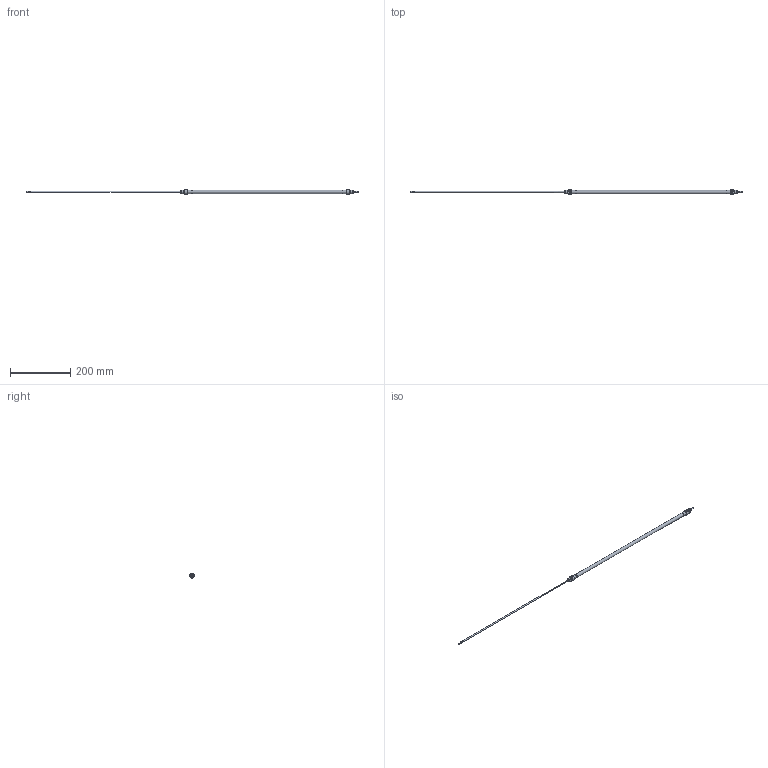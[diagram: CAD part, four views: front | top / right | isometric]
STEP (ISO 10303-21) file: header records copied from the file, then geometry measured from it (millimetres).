
FILE_DESCRIPTION( ( 'STEP AP203' ), '1' );
FILE_NAME( '//expscmdclustefs.cadenas.external/client_exchange/iodir/jobs/output/wkb68274831_no0/STEP/M101-010-0500-M__0__2_03.stp', ' ', ( ' ' ), ( ' ' ), 'PSStep 15.0.47', 'PARTsolutions', ' ' );
FILE_SCHEMA( ( 'CONFIG_CONTROL_DESIGN' ) );
Length unit declared in the file: millimetre
Products named in the file (3): M101-010-0500-M [0]; HI_M101-010-0500-M-[0]-z; HI_M101-010-0500-M-[0]-k
Assembly tree (2 placements, depth 2):
  M101-010-0500-M [0]
    HI_M101-010-0500-M-[0]-z
    HI_M101-010-0500-M-[0]-k
Bounding box: 1106 x 15.77 x 14.87 mm (x, y, z)
Volume: 33050.1 mm3; surface area: 52303 mm2
Topology: 2 solids, 2 shells, 71 faces, 145 edges, 88 vertices
Faces by surface type: plane 32, cylinder 23, cone 14, torus 2
Full cylindrical faces by diameter (mm): 3.141 x2, 4 x6, 4.134 x2, 10 x2, 10.466 x4, 11.3 x1, 12 x4
Entity records: 1838 total; most frequent: CARTESIAN_POINT 358, DIRECTION 312, ORIENTED_EDGE 212, AXIS2_PLACEMENT_3D 140, EDGE_LOOP 120, EDGE_CURVE 106, FACE_OUTER_BOUND 94, VERTEX_POINT 82
